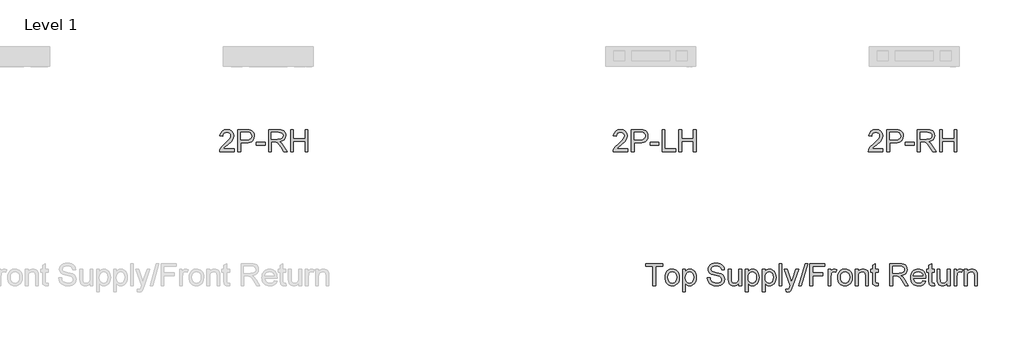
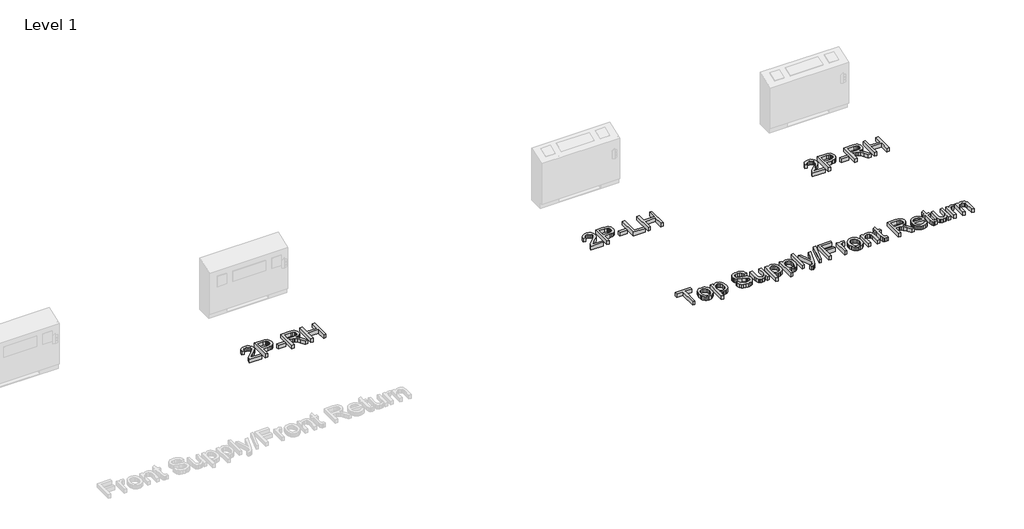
# One storey, part 2 of 2: 4 proxies.
"""IFC4 building model written with IfcOpenShell, lengths in millimetres."""

from ifc_helpers import new_model, si_unit, origin, origin_with_axes, place, context, project, spatial, polyline, outline, extrude, element, save

model = new_model("IFC4")

# Units and contexts
model_context = context("Model", 3, world=origin())
ifc_project = project(units=[si_unit("LENGTHUNIT", "METRE", prefix="MILLI")], contexts=[model_context])

# Site, building, storey
site = spatial("IfcSite", under=ifc_project)
building = spatial("IfcBuilding", under=site)
storey = spatial("IfcBuildingStorey", under=building, Name="Level 1", Elevation=0.0)

# Proxies
placement = place(None, origin())
element("IfcBuildingElementProxy", 1, Name="24\" Arial", ObjectType="24\" Arial", at=placement, inside=storey, context=model_context, shape_type="SweptSolid", body=[
    extrude(outline(polyline([(-16749.5749359, -2284.938898), (-16749.5749359, -2316.8337764), (-16917.0230479, -2316.8337764), (-16913.5968402, -2294.8437528), (-16905.7321363, -2277.6582067), (-16894.2231934, -2260.9865918), (-16854.2923006, -2224.0146965), (-16819.8744874, -2193.4435801), (-16799.2237995, -2170.8773306), (-16788.8984555, -2152.5626934), (-16785.4566742, -2134.7464136), (-16788.7037846, -2118.7756138), (-16798.4451159, -2105.4990592), (-16813.4192007, -2096.5519851), (-16832.3645716, -2093.5696271), (-16852.2599365, -2096.4819036), (-16867.7168051, -2105.2187331), (-16877.6917415, -2119.0948741), (-16881.1413096, -2137.425085), (-16913.0361881, -2133.4382252), (-16905.3038604, -2102.5867827), (-16888.5855244, -2080.0516806), (-16863.7533058, -2066.2689816), (-16831.6793301, -2061.6747487), (-16799.3717494, -2066.7829128), (-16774.5862517, -2082.1074052), (-16758.8179097, -2105.0007017), (-16753.5617957, -2132.8152784), (-16759.230612, -2163.0593477), (-16778.0747541, -2194.3312793), (-16823.7679052, -2238.0310005), (-16860.4594744, -2268.7111326), (-16874.8495465, -2284.938898), (-16749.5749359, -2284.938898)])), origin_with_axes(), (0.0, 0.0, 1.0), 50.8),
    extrude(outline(polyline([(-16705.719478, -2316.8337764), (-16705.719478, -2061.6747487), (-16611.1561469, -2061.6747487), (-16573.0318, -2064.1042414), (-16556.033138, -2068.6439665), (-16542.0401944, -2076.0336734), (-16530.7726434, -2086.6081961), (-16521.9501587, -2100.7023685), (-16516.2501951, -2117.3272624), (-16514.3502072, -2135.4939498), (-16519.4817318, -2165.5667088), (-16534.8763057, -2190.6247456), (-16547.2048131, -2200.4906663), (-16563.6642368, -2207.5377525), (-16584.2545768, -2211.7660042), (-16608.975833, -2213.1754214), (-16673.8245995, -2213.1754214), (-16673.8245995, -2316.8337764), (-16705.719478, -2316.8337764)]), holes=[polyline([(-16673.8245995, -2181.2805429), (-16607.1069924, -2181.2805429), (-16578.8252057, -2178.3526928), (-16560.1368003, -2169.5691422), (-16549.7180143, -2155.4749699), (-16546.2450857, -2136.6152541), (-16548.2930234, -2122.2874767), (-16554.4368367, -2110.2023079), (-16563.9134155, -2101.107284), (-16575.9596502, -2095.7499411), (-16607.8545286, -2093.5696271), (-16673.8245995, -2093.5696271), (-16673.8245995, -2181.2805429)])]), origin_with_axes(), (0.0, 0.0, 1.0), 50.8),
    extrude(outline(polyline([(-16490.4290483, -2241.0834401), (-16490.4290483, -2209.1885616), (-16390.7575531, -2209.1885616), (-16390.7575531, -2241.0834401), (-16490.4290483, -2241.0834401)])), origin_with_axes(), (0.0, 0.0, 1.0), 50.8),
    extrude(outline(polyline([(-16350.888955, -2316.8337764), (-16350.888955, -2061.6747487), (-16240.9388368, -2061.6747487), (-16211.3877959, -2063.3956393), (-16189.8883429, -2068.5583113), (-16174.1745087, -2078.089398), (-16161.9803242, -2092.9155329), (-16154.1545545, -2111.3002517), (-16151.5459646, -2131.50709), (-16155.8676583, -2156.6429952), (-16168.8327395, -2177.4805672), (-16190.83055, -2192.7583385), (-16222.2504315, -2201.214842), (-16204.1226783, -2214.8573779), (-16178.2703842, -2247.6866766), (-16135.7231147, -2316.8337764), (-16172.788452, -2316.8337764), (-16205.9915188, -2263.9455893), (-16229.9749724, -2228.9359766), (-16246.8256845, -2212.3967378), (-16261.9944402, -2206.3230061), (-16280.4959615, -2205.2017018), (-16318.9940765, -2205.2017018), (-16318.9940765, -2316.8337764), (-16350.888955, -2316.8337764)]), holes=[polyline([(-16318.9940765, -2173.3068233), (-16247.6043681, -2173.3068233), (-16211.193125, -2168.7904587), (-16199.2169719, -2162.9191847), (-16190.5112897, -2154.3380919), (-16185.2084547, -2143.9582401), (-16183.440843, -2132.690689), (-16186.8125428, -2117.1325915), (-16196.9276422, -2104.5957863), (-16214.3312197, -2096.3261669), (-16239.5683538, -2093.5696271), (-16318.9940765, -2093.5696271), (-16318.9940765, -2173.3068233)])]), origin_with_axes(), (0.0, 0.0, 1.0), 50.8),
    extrude(outline(polyline([(-16095.7299272, -2316.8337764), (-16095.7299272, -2061.6747487), (-16063.8350488, -2061.6747487), (-16063.8350488, -2165.3331037), (-15928.2818152, -2165.3331037), (-15928.2818152, -2061.6747487), (-15896.3869368, -2061.6747487), (-15896.3869368, -2316.8337764), (-15928.2818152, -2316.8337764), (-15928.2818152, -2197.2279822), (-16063.8350488, -2197.2279822), (-16063.8350488, -2316.8337764), (-16095.7299272, -2316.8337764)])), origin_with_axes(), (0.0, 0.0, 1.0), 50.8),
])
element("IfcBuildingElementProxy", 2, Name="24\" Arial", ObjectType="24\" Arial", at=placement, inside=storey, context=model_context, shape_type="SweptSolid", body=[
    extrude(outline(polyline([(-12199.6068392, -2284.938898), (-12199.6068392, -2316.8337764), (-12367.0549512, -2316.8337764), (-12363.6287436, -2294.8437528), (-12355.7640396, -2277.6582067), (-12344.2550967, -2260.9865918), (-12304.3242039, -2224.0146965), (-12269.9063907, -2193.4435801), (-12249.2557028, -2170.8773306), (-12238.9303588, -2152.5626934), (-12235.4885775, -2134.7464136), (-12238.7356879, -2118.7756138), (-12248.4770192, -2105.4990592), (-12263.451104, -2096.5519851), (-12282.3964749, -2093.5696271), (-12302.2918398, -2096.4819036), (-12317.7487084, -2105.2187331), (-12327.7236448, -2119.0948741), (-12331.1732129, -2137.425085), (-12363.0680914, -2133.4382252), (-12355.3357637, -2102.5867827), (-12338.6174277, -2080.0516806), (-12313.7852091, -2066.2689816), (-12281.7112334, -2061.6747487), (-12249.4036527, -2066.7829128), (-12224.6181551, -2082.1074052), (-12208.849813, -2105.0007017), (-12203.593699, -2132.8152784), (-12209.2625153, -2163.0593477), (-12228.1066574, -2194.3312793), (-12273.7998085, -2238.0310005), (-12310.4913777, -2268.7111326), (-12324.8814498, -2284.938898), (-12199.6068392, -2284.938898)])), origin_with_axes(), (0.0, 0.0, 1.0), 50.8),
    extrude(outline(polyline([(-12155.7513813, -2316.8337764), (-12155.7513813, -2061.6747487), (-12061.1880502, -2061.6747487), (-12023.0637033, -2064.1042414), (-12006.0650413, -2068.6439665), (-11992.0720978, -2076.0336734), (-11980.8045467, -2086.6081961), (-11971.982062, -2100.7023685), (-11966.2820984, -2117.3272624), (-11964.3821105, -2135.4939498), (-11969.5136351, -2165.5667088), (-11984.908209, -2190.6247456), (-11997.2367164, -2200.4906663), (-12013.6961401, -2207.5377525), (-12034.2864801, -2211.7660042), (-12059.0077363, -2213.1754214), (-12123.8565029, -2213.1754214), (-12123.8565029, -2316.8337764), (-12155.7513813, -2316.8337764)]), holes=[polyline([(-12123.8565029, -2181.2805429), (-12057.1388957, -2181.2805429), (-12028.857109, -2178.3526928), (-12010.1687036, -2169.5691422), (-11999.7499176, -2155.4749699), (-11996.276989, -2136.6152541), (-11998.3249267, -2122.2874767), (-12004.46874, -2110.2023079), (-12013.9453189, -2101.107284), (-12025.9915535, -2095.7499411), (-12057.886432, -2093.5696271), (-12123.8565029, -2093.5696271), (-12123.8565029, -2181.2805429)])]), origin_with_axes(), (0.0, 0.0, 1.0), 50.8),
    extrude(outline(polyline([(-11940.4609516, -2241.0834401), (-11940.4609516, -2209.1885616), (-11840.7894564, -2209.1885616), (-11840.7894564, -2241.0834401), (-11940.4609516, -2241.0834401)])), origin_with_axes(), (0.0, 0.0, 1.0), 50.8),
    extrude(outline(polyline([(-11800.9208583, -2316.8337764), (-11800.9208583, -2061.6747487), (-11769.0259798, -2061.6747487), (-11769.0259798, -2284.938898), (-11641.446466, -2284.938898), (-11641.446466, -2316.8337764), (-11800.9208583, -2316.8337764)])), origin_with_axes(), (0.0, 0.0, 1.0), 50.8),
    extrude(outline(polyline([(-11605.5647277, -2316.8337764), (-11605.5647277, -2061.6747487), (-11573.6698492, -2061.6747487), (-11573.6698492, -2165.3331037), (-11438.1166157, -2165.3331037), (-11438.1166157, -2061.6747487), (-11406.2217372, -2061.6747487), (-11406.2217372, -2316.8337764), (-11438.1166157, -2316.8337764), (-11438.1166157, -2197.2279822), (-11573.6698492, -2197.2279822), (-11573.6698492, -2316.8337764), (-11605.5647277, -2316.8337764)])), origin_with_axes(), (0.0, 0.0, 1.0), 50.8),
])
element("IfcBuildingElementProxy", 3, Name="24\" Arial", ObjectType="24\" Arial", at=placement, inside=storey, context=model_context, shape_type="SweptSolid", body=[
    extrude(outline(polyline([(-9247.4695, -2284.938898), (-9247.4695, -2316.8337764), (-9414.917612, -2316.8337764), (-9411.4914043, -2294.8437528), (-9403.6267004, -2277.6582067), (-9392.1177575, -2260.9865918), (-9352.1868647, -2224.0146965), (-9317.7690515, -2193.4435801), (-9297.1183636, -2170.8773306), (-9286.7930196, -2152.5626934), (-9283.3512383, -2134.7464136), (-9286.5983487, -2118.7756138), (-9296.33968, -2105.4990592), (-9311.3137648, -2096.5519851), (-9330.2591357, -2093.5696271), (-9350.1545006, -2096.4819036), (-9365.6113692, -2105.2187331), (-9375.5863056, -2119.0948741), (-9379.0358737, -2137.425085), (-9410.9307522, -2133.4382252), (-9403.1984245, -2102.5867827), (-9386.4800885, -2080.0516806), (-9361.6478699, -2066.2689816), (-9329.5738942, -2061.6747487), (-9297.2663134, -2066.7829128), (-9272.4808158, -2082.1074052), (-9256.7124738, -2105.0007017), (-9251.4563598, -2132.8152784), (-9257.1251761, -2163.0593477), (-9275.9693182, -2194.3312793), (-9321.6624693, -2238.0310005), (-9358.3540385, -2268.7111326), (-9372.7441106, -2284.938898), (-9247.4695, -2284.938898)])), origin_with_axes(), (0.0, 0.0, 1.0), 50.8),
    extrude(outline(polyline([(-9203.6140421, -2316.8337764), (-9203.6140421, -2061.6747487), (-9109.050711, -2061.6747487), (-9070.9263641, -2064.1042414), (-9053.9277021, -2068.6439665), (-9039.9347585, -2076.0336734), (-9028.6672075, -2086.6081961), (-9019.8447228, -2100.7023685), (-9014.1447592, -2117.3272624), (-9012.2447713, -2135.4939498), (-9017.3762959, -2165.5667088), (-9032.7708698, -2190.6247456), (-9045.0993772, -2200.4906663), (-9061.5588009, -2207.5377525), (-9082.1491408, -2211.7660042), (-9106.8703971, -2213.1754214), (-9171.7191636, -2213.1754214), (-9171.7191636, -2316.8337764), (-9203.6140421, -2316.8337764)]), holes=[polyline([(-9171.7191636, -2181.2805429), (-9105.0015565, -2181.2805429), (-9076.7197698, -2178.3526928), (-9058.0313644, -2169.5691422), (-9047.6125784, -2155.4749699), (-9044.1396497, -2136.6152541), (-9046.1875875, -2122.2874767), (-9052.3314008, -2110.2023079), (-9061.8079796, -2101.107284), (-9073.8542143, -2095.7499411), (-9105.7490927, -2093.5696271), (-9171.7191636, -2093.5696271), (-9171.7191636, -2181.2805429)])]), origin_with_axes(), (0.0, 0.0, 1.0), 50.8),
    extrude(outline(polyline([(-8988.3236124, -2241.0834401), (-8988.3236124, -2209.1885616), (-8888.6521172, -2209.1885616), (-8888.6521172, -2241.0834401), (-8988.3236124, -2241.0834401)])), origin_with_axes(), (0.0, 0.0, 1.0), 50.8),
    extrude(outline(polyline([(-8848.7835191, -2316.8337764), (-8848.7835191, -2061.6747487), (-8738.8334009, -2061.6747487), (-8709.28236, -2063.3956393), (-8687.782907, -2068.5583113), (-8672.0690728, -2078.089398), (-8659.8748883, -2092.9155329), (-8652.0491186, -2111.3002517), (-8649.4405287, -2131.50709), (-8653.7622224, -2156.6429952), (-8666.7273036, -2177.4805672), (-8688.7251141, -2192.7583385), (-8720.1449956, -2201.214842), (-8702.0172424, -2214.8573779), (-8676.1649483, -2247.6866766), (-8633.6176788, -2316.8337764), (-8670.6830161, -2316.8337764), (-8703.8860829, -2263.9455893), (-8727.8695365, -2228.9359766), (-8744.7202486, -2212.3967378), (-8759.8890043, -2206.3230061), (-8778.3905256, -2205.2017018), (-8816.8886406, -2205.2017018), (-8816.8886406, -2316.8337764), (-8848.7835191, -2316.8337764)]), holes=[polyline([(-8816.8886406, -2173.3068233), (-8745.4989322, -2173.3068233), (-8709.0876891, -2168.7904587), (-8697.111536, -2162.9191847), (-8688.4058538, -2154.3380919), (-8683.1030188, -2143.9582401), (-8681.3354071, -2132.690689), (-8684.7071069, -2117.1325915), (-8694.8222063, -2104.5957863), (-8712.2257838, -2096.3261669), (-8737.4629179, -2093.5696271), (-8816.8886406, -2093.5696271), (-8816.8886406, -2173.3068233)])]), origin_with_axes(), (0.0, 0.0, 1.0), 50.8),
    extrude(outline(polyline([(-8593.6244913, -2316.8337764), (-8593.6244913, -2061.6747487), (-8561.7296129, -2061.6747487), (-8561.7296129, -2165.3331037), (-8426.1763793, -2165.3331037), (-8426.1763793, -2061.6747487), (-8394.2815009, -2061.6747487), (-8394.2815009, -2316.8337764), (-8426.1763793, -2316.8337764), (-8426.1763793, -2197.2279822), (-8561.7296129, -2197.2279822), (-8561.7296129, -2316.8337764), (-8593.6244913, -2316.8337764)])), origin_with_axes(), (0.0, 0.0, 1.0), 50.8),
])
element("IfcBuildingElementProxy", 4, Name="24\" Arial", ObjectType="24\" Arial", at=placement, inside=storey, context=model_context, shape_type="SweptSolid", body=[
    extrude(outline(polyline([(-11906.8480727, -3865.3936295), (-11906.8480727, -3642.1294801), (-11990.5721287, -3642.1294801), (-11990.5721287, -3610.2346017), (-11791.2291382, -3610.2346017), (-11791.2291382, -3642.1294801), (-11874.9531942, -3642.1294801), (-11874.9531942, -3865.3936295), (-11906.8480727, -3865.3936295)])), origin_with_axes(), (0.0, 0.0, 1.0), 50.8),
    extrude(outline(polyline([(-11767.3079794, -3771.7024239), (-11765.5831953, -3747.4347509), (-11760.4088431, -3726.523204), (-11751.7849227, -3708.9677832), (-11739.7114341, -3694.7684886), (-11714.1394661, -3679.2103911), (-11683.5216287, -3674.0243586), (-11665.925327, -3675.6031395), (-11650.0148753, -3680.3394823), (-11635.7902734, -3688.2333868), (-11623.2515214, -3699.2848532), (-11613.0176728, -3713.1201133), (-11605.7077809, -3729.365399), (-11601.3218458, -3748.0207103), (-11599.8598674, -3769.0860472), (-11602.4450968, -3801.3079728), (-11610.200785, -3825.8365048), (-11622.9011138, -3844.2056499), (-11640.320265, -3857.9494147), (-11661.0098871, -3866.5227206), (-11683.5216287, -3869.3804893), (-11701.3748959, -3867.8075485), (-11717.4332976, -3863.0887261), (-11731.6968336, -3855.2240222), (-11744.1655041, -3844.2134367), (-11754.290337, -3830.2438537), (-11761.5223606, -3813.5021573), (-11765.8615747, -3793.9883473), (-11767.3079794, -3771.7024239)]), holes=[polyline([(-11735.4131009, -3771.6401293), (-11731.7221408, -3800.5059287), (-11720.6492607, -3821.0709614), (-11703.9854326, -3833.3819484), (-11683.5216287, -3837.4856108), (-11663.1512669, -3833.3585879), (-11646.5185861, -3820.9775194), (-11635.4457059, -3800.1399474), (-11631.7547459, -3770.6434143), (-11635.4690664, -3742.6185931), (-11646.6120281, -3722.3338865), (-11663.2680694, -3710.0228994), (-11683.5216287, -3705.9192371), (-11703.9854326, -3710.0073258), (-11720.6492607, -3722.2715918), (-11731.7221408, -3742.7899035), (-11735.4131009, -3771.6401293)])]), origin_with_axes(), (0.0, 0.0, 1.0), 50.8),
    extrude(outline(polyline([(-11563.9781291, -3937.157106), (-11563.9781291, -3678.0112184), (-11532.0832506, -3678.0112184), (-11532.0832506, -3709.2831501), (-11521.6800383, -3693.8574288), (-11510.0309323, -3682.8390565), (-11496.4506911, -3676.2280331), (-11480.2540731, -3674.0243586), (-11458.6845386, -3677.1079455), (-11439.8248229, -3686.3587062), (-11424.4691831, -3701.2159884), (-11413.4118766, -3721.1191401), (-11406.7307717, -3744.6198098), (-11404.5037368, -3770.2696462), (-11407.0188846, -3797.5469312), (-11414.5643283, -3821.943087), (-11426.8986758, -3842.2200068), (-11443.7805353, -3857.1395838), (-11463.4422951, -3866.3202629), (-11484.1163436, -3869.3804893), (-11498.7789549, -3867.3325515), (-11511.8686255, -3861.1887382), (-11532.0832506, -3840.4757556), (-11532.0832506, -3937.157106), (-11563.9781291, -3937.157106)]), holes=[polyline([(-11532.0832506, -3773.1974964), (-11528.6336825, -3801.7907566), (-11518.284978, -3821.7873503), (-11503.0149935, -3833.5610457), (-11484.8015851, -3837.4856108), (-11466.292277, -3833.4208826), (-11450.6329506, -3821.2266981), (-11439.9571991, -3800.4981419), (-11436.3986152, -3770.8302984), (-11439.8715439, -3742.3927749), (-11450.2903299, -3722.1158551), (-11465.5369539, -3709.9683916), (-11483.4933967, -3705.9192371), (-11501.5199211, -3710.2253572), (-11517.3505578, -3723.1437174), (-11528.4000774, -3744.2694022), (-11532.0832506, -3773.1974964)])]), origin_with_axes(), (0.0, 0.0, 1.0), 50.8),
    extrude(outline(polyline([(-11276.9242229, -3777.6827137), (-11245.0293444, -3777.6827137), (-11241.3695317, -3795.3821909), (-11234.7507214, -3809.6087395), (-11224.4253775, -3820.899651), (-11209.6459636, -3829.7922173), (-11191.5805051, -3835.5622624), (-11171.3970273, -3837.4856108), (-11153.6274685, -3836.0294725), (-11138.0693711, -3831.6610578), (-11125.4624843, -3824.7463478), (-11116.5465576, -3815.6513239), (-11111.2437226, -3805.2091774), (-11109.4761109, -3794.2530997), (-11114.7711591, -3774.349948), (-11122.8383207, -3766.4774573), (-11136.4497093, -3759.8664339), (-11182.8903966, -3747.6878231), (-11232.8818809, -3731.9584152), (-11248.7592386, -3721.2281558), (-11260.011216, -3708.2241404), (-11266.7156814, -3693.2266951), (-11268.9505032, -3676.516146), (-11266.1861766, -3657.8355275), (-11257.8931967, -3640.4163763), (-11244.289595, -3625.6525361), (-11225.5934028, -3614.9378504), (-11203.1517427, -3608.420269), (-11178.3117373, -3606.2477419), (-11151.4004336, -3608.5214978), (-11127.8530428, -3615.3427658), (-11108.5105433, -3626.5713827), (-11094.2139132, -3642.0671855), (-11085.1656102, -3660.8646065), (-11081.5680922, -3681.9980782), (-11113.4629707, -3681.9980782), (-11119.318671, -3662.9670521), (-11131.5284292, -3649.2310742), (-11150.6061763, -3640.9147338), (-11177.0658436, -3638.1426203), (-11204.1484577, -3640.8835865), (-11222.7278473, -3649.1064848), (-11233.4736804, -3661.2072273), (-11237.0556248, -3675.5817257), (-11234.5171164, -3687.8382049), (-11226.9015912, -3697.6963387), (-11208.8984274, -3706.5110366), (-11174.8232349, -3715.5126185), (-11118.3842508, -3731.5223524), (-11100.2019897, -3743.0935901), (-11087.5172346, -3757.3746465), (-11080.065233, -3774.209785), (-11077.5812324, -3793.4432688), (-11080.4390011, -3813.1050286), (-11089.012307, -3831.5987631), (-11102.9507427, -3847.515055), (-11121.9039004, -3859.4444871), (-11144.6959681, -3866.8964887), (-11170.1511336, -3869.3804893), (-11201.3997047, -3866.7018178), (-11227.1196226, -3858.6658035), (-11247.606787, -3845.241299), (-11263.1570976, -3826.3971569), (-11273.1398208, -3803.4415657), (-11276.9242229, -3777.6827137)])), origin_with_axes(), (0.0, 0.0, 1.0), 50.8),
    extrude(outline(polyline([(-10914.1199802, -3865.3936295), (-10914.1199802, -3833.1872776), (-10925.6600705, -3849.0218077), (-10939.1001487, -3860.3321863), (-10954.4402148, -3867.1184135), (-10971.6802687, -3869.3804893), (-10987.2150057, -3867.7919748), (-11001.6751593, -3863.0264314), (-11013.8070491, -3855.8625427), (-11022.3569946, -3847.0789922), (-11031.856934, -3823.5938961), (-11033.7257745, -3793.9416263), (-11033.7257745, -3678.0112184), (-11001.830896, -3678.0112184), (-11001.830896, -3778.9286073), (-10999.8997608, -3811.4464327), (-10995.25102, -3822.2934946), (-10987.2850872, -3830.5397535), (-10976.5314673, -3835.7491465), (-10963.5196651, -3837.4856108), (-10949.7603266, -3835.7102123), (-10936.8886874, -3830.3840168), (-10926.2752306, -3821.9975949), (-10919.2904391, -3811.0415172), (-10915.4125949, -3796.0362851), (-10914.1199802, -3775.5023997), (-10914.1199802, -3678.0112184), (-10882.2251018, -3678.0112184), (-10882.2251018, -3865.3936295), (-10914.1199802, -3865.3936295)])), origin_with_axes(), (0.0, 0.0, 1.0), 50.8),
    extrude(outline(polyline([(-10838.3696439, -3937.157106), (-10838.3696439, -3678.0112184), (-10806.4747654, -3678.0112184), (-10806.4747654, -3709.2831501), (-10796.0715531, -3693.8574288), (-10784.4224471, -3682.8390565), (-10770.8422058, -3676.2280331), (-10754.6455879, -3674.0243586), (-10733.0760534, -3677.1079455), (-10714.2163376, -3686.3587062), (-10698.8606979, -3701.2159884), (-10687.8033914, -3721.1191401), (-10681.1222865, -3744.6198098), (-10678.8952515, -3770.2696462), (-10681.4103994, -3797.5469312), (-10688.9558431, -3821.943087), (-10701.2901906, -3842.2200068), (-10718.1720501, -3857.1395838), (-10737.8338099, -3866.3202629), (-10758.5078583, -3869.3804893), (-10773.1704697, -3867.3325515), (-10786.2601403, -3861.1887382), (-10806.4747654, -3840.4757556), (-10806.4747654, -3937.157106), (-10838.3696439, -3937.157106)]), holes=[polyline([(-10806.4747654, -3773.1974964), (-10803.0251972, -3801.7907566), (-10792.6764928, -3821.7873503), (-10777.4065082, -3833.5610457), (-10759.1930998, -3837.4856108), (-10740.6837917, -3833.4208826), (-10725.0244654, -3821.2266981), (-10714.3487138, -3800.4981419), (-10710.79013, -3770.8302984), (-10714.2630586, -3742.3927749), (-10724.6818446, -3722.1158551), (-10739.9284687, -3709.9683916), (-10757.8849115, -3705.9192371), (-10775.9114358, -3710.2253572), (-10791.7420725, -3723.1437174), (-10802.7915922, -3744.2694022), (-10806.4747654, -3773.1974964)])]), origin_with_axes(), (0.0, 0.0, 1.0), 50.8),
    extrude(outline(polyline([(-10643.0135132, -3937.157106), (-10643.0135132, -3678.0112184), (-10611.1186347, -3678.0112184), (-10611.1186347, -3709.2831501), (-10600.7154224, -3693.8574288), (-10589.0663164, -3682.8390565), (-10575.4860752, -3676.2280331), (-10559.2894572, -3674.0243586), (-10537.7199227, -3677.1079455), (-10518.860207, -3686.3587062), (-10503.5045672, -3701.2159884), (-10492.4472607, -3721.1191401), (-10485.7661558, -3744.6198098), (-10483.5391209, -3770.2696462), (-10486.0542687, -3797.5469312), (-10493.5997124, -3821.943087), (-10505.9340599, -3842.2200068), (-10522.8159194, -3857.1395838), (-10542.4776792, -3866.3202629), (-10563.1517277, -3869.3804893), (-10577.814339, -3867.3325515), (-10590.9040096, -3861.1887382), (-10611.1186347, -3840.4757556), (-10611.1186347, -3937.157106), (-10643.0135132, -3937.157106)]), holes=[polyline([(-10611.1186347, -3773.1974964), (-10607.6690666, -3801.7907566), (-10597.3203621, -3821.7873503), (-10582.0503776, -3833.5610457), (-10563.8369692, -3837.4856108), (-10545.3276611, -3833.4208826), (-10529.6683347, -3821.2266981), (-10518.9925832, -3800.4981419), (-10515.4339993, -3770.8302984), (-10518.906928, -3742.3927749), (-10529.325714, -3722.1158551), (-10544.572338, -3709.9683916), (-10562.5287808, -3705.9192371), (-10580.5553052, -3710.2253572), (-10596.3859419, -3723.1437174), (-10607.4354615, -3744.2694022), (-10611.1186347, -3773.1974964)])]), origin_with_axes(), (0.0, 0.0, 1.0), 50.8),
    extrude(outline(polyline([(-10447.6573826, -3865.3936295), (-10447.6573826, -3610.2346017), (-10415.7625041, -3610.2346017), (-10415.7625041, -3865.3936295), (-10447.6573826, -3865.3936295)])), origin_with_axes(), (0.0, 0.0, 1.0), 50.8),
    extrude(outline(polyline([(-10367.9201864, -3937.157106), (-10371.9070462, -3906.4458265), (-10355.7104282, -3909.2490874), (-10340.5728199, -3905.7294377), (-10331.2909119, -3895.9180249), (-10322.5696561, -3872.4329288), (-10320.0778687, -3864.7083879), (-10387.8544854, -3678.0112184), (-10354.2153558, -3678.0112184), (-10318.2713228, -3782.0433416), (-10305.7500912, -3823.6561908), (-10293.2288597, -3786.902327), (-10256.2881117, -3678.0112184), (-10222.8981608, -3678.0112184), (-10288.1206955, -3869.8788467), (-10305.0648497, -3911.491696), (-10313.7393845, -3924.7760375), (-10323.566371, -3933.9800771), (-10334.981872, -3939.3529936), (-10348.4219501, -3941.1439658), (-10367.9201864, -3937.157106)])), origin_with_axes(), (0.0, 0.0, 1.0), 50.8),
    extrude(outline(polyline([(-10220.4063735, -3865.3936295), (-10148.6428969, -3610.2346017), (-10119.8627526, -3610.2346017), (-10191.6262292, -3865.3936295), (-10220.4063735, -3865.3936295)])), origin_with_axes(), (0.0, 0.0, 1.0), 50.8),
    extrude(outline(polyline([(-10092.8268596, -3865.3936295), (-10092.8268596, -3610.2346017), (-9921.3918878, -3610.2346017), (-9921.3918878, -3642.1294801), (-10060.9319811, -3642.1294801), (-10060.9319811, -3717.8798165), (-9941.3261868, -3717.8798165), (-9941.3261868, -3749.774695), (-10060.9319811, -3749.774695), (-10060.9319811, -3865.3936295), (-10092.8268596, -3865.3936295)])), origin_with_axes(), (0.0, 0.0, 1.0), 50.8),
    extrude(outline(polyline([(-9881.5232897, -3865.3936295), (-9881.5232897, -3678.0112184), (-9853.615271, -3678.0112184), (-9853.615271, -3705.732353), (-9843.3055007, -3689.6603244), (-9833.8055613, -3680.1915324), (-9824.2744746, -3675.5661521), (-9813.8712623, -3674.0243586), (-9797.9861178, -3676.4849987), (-9781.8517945, -3683.8669188), (-9792.5041855, -3712.460179), (-9814.9302719, -3705.9192371), (-9824.4535718, -3707.4921779), (-9832.9645831, -3712.2110002), (-9839.8403589, -3719.7175097), (-9844.4579524, -3729.6535119), (-9849.6284112, -3766.9057332), (-9849.6284112, -3865.3936295), (-9881.5232897, -3865.3936295)])), origin_with_axes(), (0.0, 0.0, 1.0), 50.8),
    extrude(outline(polyline([(-9769.891215, -3771.7024239), (-9768.166431, -3747.4347509), (-9762.9920787, -3726.523204), (-9754.3681583, -3708.9677832), (-9742.2946698, -3694.7684886), (-9716.7227018, -3679.2103911), (-9686.1048644, -3674.0243586), (-9668.5085627, -3675.6031395), (-9652.5981109, -3680.3394823), (-9638.3735091, -3688.2333868), (-9625.8347571, -3699.2848532), (-9615.6009084, -3713.1201133), (-9608.2910166, -3729.365399), (-9603.9050814, -3748.0207103), (-9602.4431031, -3769.0860472), (-9605.0283325, -3801.3079728), (-9612.7840207, -3825.8365048), (-9625.4843495, -3844.2056499), (-9642.9035006, -3857.9494147), (-9663.5931227, -3866.5227206), (-9686.1048644, -3869.3804893), (-9703.9581316, -3867.8075485), (-9720.0165332, -3863.0887261), (-9734.2800693, -3855.2240222), (-9746.7487397, -3844.2134367), (-9756.8735727, -3830.2438537), (-9764.1055962, -3813.5021573), (-9768.4448103, -3793.9883473), (-9769.891215, -3771.7024239)]), holes=[polyline([(-9737.9963366, -3771.6401293), (-9734.3053765, -3800.5059287), (-9723.2324963, -3821.0709614), (-9706.5686682, -3833.3819484), (-9686.1048644, -3837.4856108), (-9665.7345025, -3833.3585879), (-9649.1018218, -3820.9775194), (-9638.0289416, -3800.1399474), (-9634.3379815, -3770.6434143), (-9638.0523021, -3742.6185931), (-9649.1952638, -3722.3338865), (-9665.8513051, -3710.0228994), (-9686.1048644, -3705.9192371), (-9706.5686682, -3710.0073258), (-9723.2324963, -3722.2715918), (-9734.3053765, -3742.7899035), (-9737.9963366, -3771.6401293)])]), origin_with_axes(), (0.0, 0.0, 1.0), 50.8),
    extrude(outline(polyline([(-9566.5613648, -3865.3936295), (-9566.5613648, -3678.0112184), (-9534.6664863, -3678.0112184), (-9534.6664863, -3704.1749859), (-9523.5858193, -3690.9840865), (-9510.2781173, -3681.5620154), (-9494.7433804, -3675.9087728), (-9476.9816084, -3674.0243586), (-9461.2599874, -3675.5427916), (-9446.8621285, -3680.0980904), (-9434.854828, -3687.121816), (-9426.3048826, -3696.0455296), (-9416.7426485, -3719.4994783), (-9415.060692, -3750.3353472), (-9415.060692, -3865.3936295), (-9446.9555705, -3865.3936295), (-9446.9555705, -3754.6336804), (-9450.6309569, -3726.4141883), (-9455.7157605, -3718.0121927), (-9463.6193986, -3711.4946114), (-9485.5159802, -3705.9192371), (-9504.1965987, -3709.049545), (-9520.1206775, -3718.4404687), (-9531.0300341, -3736.5837955), (-9534.6664863, -3765.971313), (-9534.6664863, -3865.3936295), (-9566.5613648, -3865.3936295)])), origin_with_axes(), (0.0, 0.0, 1.0), 50.8),
    extrude(outline(polyline([(-9303.4286174, -3838.7937992), (-9299.4417576, -3866.3280497), (-9323.3006217, -3869.3804893), (-9338.6095405, -3868.0567272), (-9350.0250414, -3864.0854411), (-9363.3561039, -3850.1937264), (-9367.2183743, -3814.0005147), (-9367.2183743, -3709.9060969), (-9391.1395332, -3709.9060969), (-9391.1395332, -3678.0112184), (-9367.2183743, -3678.0112184), (-9367.2183743, -3632.473804), (-9335.3234958, -3613.723104), (-9335.3234958, -3678.0112184), (-9303.4286174, -3678.0112184), (-9303.4286174, -3709.9060969), (-9335.3234958, -3709.9060969), (-9335.3234958, -3813.0660945), (-9333.6415394, -3829.5118912), (-9328.1907545, -3835.3364442), (-9317.320332, -3837.4856108), (-9303.4286174, -3838.7937992)])), origin_with_axes(), (0.0, 0.0, 1.0), 50.8),
    extrude(outline(polyline([(-9167.8753839, -3865.3936295), (-9167.8753839, -3610.2346017), (-9057.9252657, -3610.2346017), (-9028.3742247, -3611.9554923), (-9006.8747717, -3617.1181643), (-8991.1609376, -3626.649251), (-8978.9667531, -3641.475386), (-8971.1409833, -3659.8601047), (-8968.5323934, -3680.066943), (-8972.8540872, -3705.2028482), (-8985.8191684, -3726.0404202), (-9007.8169788, -3741.3181916), (-9039.2368603, -3749.774695), (-9021.1091071, -3763.4172309), (-8995.2568131, -3796.2465296), (-8952.7095435, -3865.3936295), (-8989.7748808, -3865.3936295), (-9022.9779477, -3812.5054423), (-9046.9614012, -3777.4958296), (-9063.8121134, -3760.9565909), (-9078.9808691, -3754.8828591), (-9097.4823904, -3753.7615548), (-9135.9805054, -3753.7615548), (-9135.9805054, -3865.3936295), (-9167.8753839, -3865.3936295)]), holes=[polyline([(-9135.9805054, -3721.8666763), (-9064.5907969, -3721.8666763), (-9028.1795538, -3717.3503117), (-9016.2034007, -3711.4790377), (-9007.4977186, -3702.8979449), (-9002.1948836, -3692.5180931), (-9000.4272719, -3681.250542), (-9003.7989717, -3665.6924446), (-9013.9140711, -3653.1556393), (-9031.3176486, -3644.8860199), (-9056.5547826, -3642.1294801), (-9135.9805054, -3642.1294801), (-9135.9805054, -3721.8666763)])]), origin_with_axes(), (0.0, 0.0, 1.0), 50.8),
    extrude(outline(polyline([(-8785.5106103, -3809.5775921), (-8754.2386787, -3813.5644519), (-8765.5062297, -3837.1274164), (-8783.4860331, -3854.7412384), (-8807.7731732, -3865.7206765), (-8837.9627347, -3869.3804893), (-8857.7529773, -3867.8017084), (-8875.3862664, -3863.0653656), (-8890.8626021, -3855.1714611), (-8904.1819843, -3844.1199947), (-8914.8927766, -3830.2185465), (-8922.5433426, -3813.7746965), (-8927.1336821, -3794.7884447), (-8928.6637953, -3773.2597911), (-8927.1181085, -3751.0011216), (-8922.4810479, -3731.3821894), (-8914.7526136, -3714.4029944), (-8903.9328056, -3700.0635367), (-8890.6484641, -3688.6713963), (-8875.5264294, -3680.5341532), (-8858.5667016, -3675.6518073), (-8839.7692805, -3674.0243586), (-8821.5772859, -3675.6479138), (-8805.1256491, -3680.5185795), (-8790.41437, -3688.6363556), (-8777.4434487, -3700.0012421), (-8766.855299, -3714.3095524), (-8759.292335, -3731.2576), (-8754.7545565, -3750.8453849), (-8753.2419637, -3773.072907), (-8753.4288478, -3781.6695735), (-8896.7689169, -3781.6695735), (-8891.2480504, -3805.5440113), (-8878.4231323, -3823.0955387), (-8859.9138241, -3833.8880928), (-8837.3397878, -3837.4856108), (-8820.3644863, -3835.819228), (-8806.0678562, -3830.8200795), (-8794.4498975, -3822.1766921), (-8785.5106103, -3809.5775921)]), holes=[polyline([(-8896.7689169, -3749.774695), (-8785.1368422, -3749.774695), (-8789.4507491, -3732.9239828), (-8797.9072525, -3720.8699614), (-8816.5022159, -3709.6569182), (-8839.8938699, -3705.9192371), (-8861.3933229, -3708.9015951), (-8879.1706685, -3717.8486692), (-8891.5283765, -3731.7948917), (-8896.7689169, -3749.774695)])]), origin_with_axes(), (0.0, 0.0, 1.0), 50.8),
    extrude(outline(polyline([(-8653.5704685, -3838.7937992), (-8649.5836087, -3866.3280497), (-8673.4424729, -3869.3804893), (-8688.7513916, -3868.0567272), (-8700.1668925, -3864.0854411), (-8713.497955, -3850.1937264), (-8717.3602254, -3814.0005147), (-8717.3602254, -3709.9060969), (-8741.2813843, -3709.9060969), (-8741.2813843, -3678.0112184), (-8717.3602254, -3678.0112184), (-8717.3602254, -3632.473804), (-8685.465347, -3613.723104), (-8685.465347, -3678.0112184), (-8653.5704685, -3678.0112184), (-8653.5704685, -3709.9060969), (-8685.465347, -3709.9060969), (-8685.465347, -3813.0660945), (-8683.7833905, -3829.5118912), (-8678.3326056, -3835.3364442), (-8667.4621831, -3837.4856108), (-8653.5704685, -3838.7937992)])), origin_with_axes(), (0.0, 0.0, 1.0), 50.8),
    extrude(outline(polyline([(-8502.0697958, -3865.3936295), (-8502.0697958, -3833.1872776), (-8513.6098861, -3849.0218077), (-8527.0499642, -3860.3321863), (-8542.3900303, -3867.1184135), (-8559.6300842, -3869.3804893), (-8575.1648212, -3867.7919748), (-8589.6249748, -3863.0264314), (-8601.7568647, -3855.8625427), (-8610.3068101, -3847.0789922), (-8619.8067495, -3823.5938961), (-8621.67559, -3793.9416263), (-8621.67559, -3678.0112184), (-8589.7807116, -3678.0112184), (-8589.7807116, -3778.9286073), (-8587.8495763, -3811.4464327), (-8583.2008355, -3822.2934946), (-8575.2349027, -3830.5397535), (-8564.4812828, -3835.7491465), (-8551.4694806, -3837.4856108), (-8537.7101421, -3835.7102123), (-8524.8385029, -3830.3840168), (-8514.2250461, -3821.9975949), (-8507.2402546, -3811.0415172), (-8503.3624105, -3796.0362851), (-8502.0697958, -3775.5023997), (-8502.0697958, -3678.0112184), (-8470.1749173, -3678.0112184), (-8470.1749173, -3865.3936295), (-8502.0697958, -3865.3936295)])), origin_with_axes(), (0.0, 0.0, 1.0), 50.8),
    extrude(outline(polyline([(-8426.3194594, -3865.3936295), (-8426.3194594, -3678.0112184), (-8398.4114407, -3678.0112184), (-8398.4114407, -3705.732353), (-8388.1016704, -3689.6603244), (-8378.601731, -3680.1915324), (-8369.0706443, -3675.5661521), (-8358.667432, -3674.0243586), (-8342.7822874, -3676.4849987), (-8326.6479642, -3683.8669188), (-8337.3003552, -3712.460179), (-8359.7264416, -3705.9192371), (-8369.2497415, -3707.4921779), (-8377.7607528, -3712.2110002), (-8384.6365286, -3719.7175097), (-8389.2541221, -3729.6535119), (-8394.4245809, -3766.9057332), (-8394.4245809, -3865.3936295), (-8426.3194594, -3865.3936295)])), origin_with_axes(), (0.0, 0.0, 1.0), 50.8),
    extrude(outline(polyline([(-8306.7136651, -3865.3936295), (-8306.7136651, -3678.0112184), (-8274.8187866, -3678.0112184), (-8274.8187866, -3704.1749859), (-8263.7381196, -3690.9840865), (-8250.4304176, -3681.5620154), (-8234.8956807, -3675.9087728), (-8217.1339088, -3674.0243586), (-8201.4122878, -3675.5427916), (-8187.0144288, -3680.0980904), (-8175.0071284, -3687.121816), (-8166.4571829, -3696.0455296), (-8156.8949488, -3719.4994783), (-8155.2129924, -3750.3353472), (-8155.2129924, -3865.3936295), (-8187.1078708, -3865.3936295), (-8187.1078708, -3754.6336804), (-8190.7832572, -3726.4141883), (-8195.8680608, -3718.0121927), (-8203.7716989, -3711.4946114), (-8225.6682806, -3705.9192371), (-8244.3488991, -3709.049545), (-8260.2729778, -3718.4404687), (-8271.1823344, -3736.5837955), (-8274.8187866, -3765.971313), (-8274.8187866, -3865.3936295), (-8306.7136651, -3865.3936295)])), origin_with_axes(), (0.0, 0.0, 1.0), 50.8),
])

save(model, "model.ifc")
